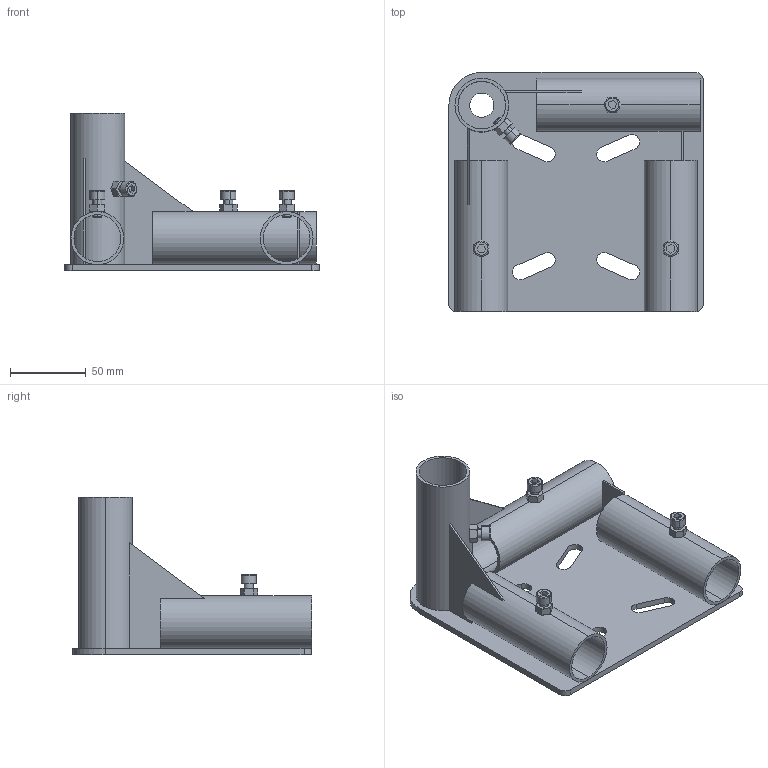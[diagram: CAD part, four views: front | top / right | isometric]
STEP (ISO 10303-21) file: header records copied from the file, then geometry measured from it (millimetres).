
FILE_DESCRIPTION (( 'STEP AP203' ), '1' );
FILE_NAME ('015.300.007.STEP', '2016-10-24T08:50:34', ( '' ), ( '' ), 'SwSTEP 2.0', 'SolidWorks 2016', '' );
FILE_SCHEMA (( 'CONFIG_CONTROL_DESIGN' ));
Length unit declared in the file: millimetre
Products named in the file (4): 015.300.007; VITI TCEI UNI 5931_M6x12 UNI 5931; DADI ESAGONALI NORMALI UNI 5588_M6 UNI 5588
Assembly tree (9 placements, depth 2):
  015.300.007
    015.300.007
    DADI ESAGONALI NORMALI UNI 5588_M6 UNI 5588  x4
    VITI TCEI UNI 5931_M6x12 UNI 5931  x4
Bounding box: 168 x 158 x 104 mm (x, y, z)
Volume: 194247.8 mm3; surface area: 152561.9 mm2
Topology: 15 solids, 15 shells, 244 faces, 562 edges, 352 vertices
Faces by surface type: plane 114, cylinder 66, cone 56, torus 8
Entity records: 4790 total; most frequent: CARTESIAN_POINT 1230, DIRECTION 626, ORIENTED_EDGE 608, EDGE_CURVE 304, AXIS2_PLACEMENT_3D 234, VERTEX_POINT 196, VECTOR 158, LINE 158
